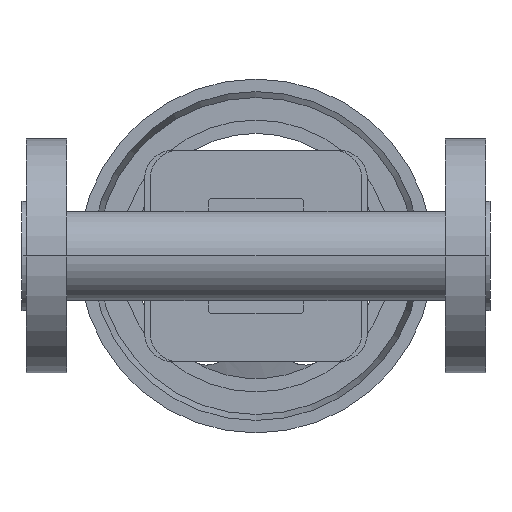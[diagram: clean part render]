
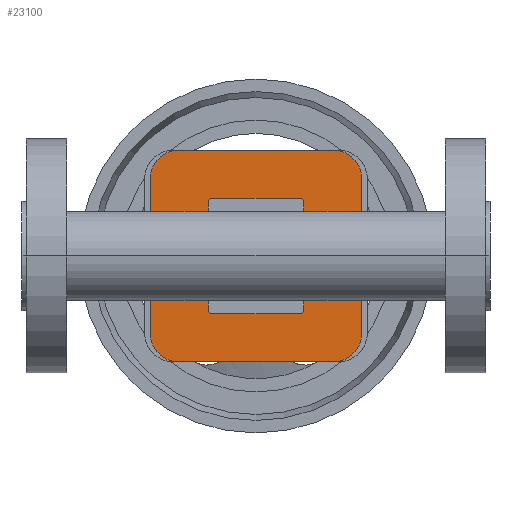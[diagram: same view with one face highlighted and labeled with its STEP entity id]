
A CAD part, front view. The second image highlights one B-rep face of the part: STEP entity #23100.
In plain terms, the highlighted planar face has unit normal (0, -1, 0).
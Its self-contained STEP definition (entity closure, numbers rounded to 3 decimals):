
#1070=CARTESIAN_POINT('',(126.533,39.,18.284));
#1080=VERTEX_POINT('',#1070);
#1110=CARTESIAN_POINT('',(119.977,39.,0.));
#1120=DIRECTION('',(0.,-1.,-0.));
#1130=DIRECTION('',(1.,0.,0.));
#1140=AXIS2_PLACEMENT_3D('',#1110,#1120,#1130);
#1150=ELLIPSE('',#1140,24.111,19.);
#1160=CARTESIAN_POINT('',(126.533,39.,-18.284));
#1170=VERTEX_POINT('',#1160);
#1180=EDGE_CURVE('',#1170,#1080,#1150,.T.);
#9020=CARTESIAN_POINT('',(152.5,39.,-34.5));
#9030=VERTEX_POINT('',#9020);
#9190=CARTESIAN_POINT('',(139.5,39.,-47.5));
#9200=VERTEX_POINT('',#9190);
#9230=CARTESIAN_POINT('',(139.5,39.,-34.5));
#9240=DIRECTION('',(-0.,1.,0.));
#9250=DIRECTION('',(1.,0.,0.));
#9260=AXIS2_PLACEMENT_3D('',#9230,#9240,#9250);
#9270=CIRCLE('',#9260,13.);
#9280=EDGE_CURVE('',#9030,#9200,#9270,.T.);
#9440=CARTESIAN_POINT('',(70.5,39.,-47.5));
#9450=VERTEX_POINT('',#9440);
#9610=CARTESIAN_POINT('',(57.5,39.,-34.5));
#9620=VERTEX_POINT('',#9610);
#9650=CARTESIAN_POINT('',(70.5,39.,-34.5));
#9660=DIRECTION('',(0.,1.,0.));
#9670=DIRECTION('',(0.,0.,-1.));
#9680=AXIS2_PLACEMENT_3D('',#9650,#9660,#9670);
#9690=CIRCLE('',#9680,13.);
#9700=EDGE_CURVE('',#9450,#9620,#9690,.T.);
#9860=CARTESIAN_POINT('',(70.5,39.,47.5));
#9870=VERTEX_POINT('',#9860);
#10020=CARTESIAN_POINT('',(139.5,39.,47.5));
#10030=VERTEX_POINT('',#10020);
#10060=CARTESIAN_POINT('',(70.5,39.,47.5));
#10070=DIRECTION('',(1.,0.,0.));
#10080=VECTOR('',#10070,1.);
#10090=LINE('',#10060,#10080);
#10100=EDGE_CURVE('',#9870,#10030,#10090,.T.);
#10200=CARTESIAN_POINT('',(62.,39.,3.));
#10210=DIRECTION('',(0.,0.,1.));
#10220=VECTOR('',#10210,1.);
#10230=LINE('',#10200,#10220);
#10240=CARTESIAN_POINT('',(62.,39.,-6.));
#10250=VERTEX_POINT('',#10240);
#10260=CARTESIAN_POINT('',(62.,39.,6.));
#10270=VERTEX_POINT('',#10260);
#10280=EDGE_CURVE('',#10250,#10270,#10230,.T.);
#10660=CARTESIAN_POINT('',(152.5,39.,34.5));
#10670=VERTEX_POINT('',#10660);
#10770=CARTESIAN_POINT('',(152.5,39.,34.5));
#10780=DIRECTION('',(0.,0.,-1.));
#10790=VECTOR('',#10780,1.);
#10800=LINE('',#10770,#10790);
#10810=EDGE_CURVE('',#10670,#9030,#10800,.T.);
#11550=CARTESIAN_POINT('',(105.,39.,6.));
#11560=DIRECTION('',(1.,0.,0.));
#11570=VECTOR('',#11560,1.);
#11580=LINE('',#11550,#11570);
#11590=CARTESIAN_POINT('',(77.65,39.,6.));
#11600=VERTEX_POINT('',#11590);
#11610=EDGE_CURVE('',#10270,#11600,#11580,.T.);
#14610=CARTESIAN_POINT('',(124.5,39.,26.));
#14620=VERTEX_POINT('',#14610);
#14770=CARTESIAN_POINT('',(85.5,39.,26.));
#14780=VERTEX_POINT('',#14770);
#14810=CARTESIAN_POINT('',(114.75,39.,26.));
#14820=DIRECTION('',(1.,0.,0.));
#14830=VECTOR('',#14820,1.);
#14840=LINE('',#14810,#14830);
#14850=EDGE_CURVE('',#14780,#14620,#14840,.T.);
#15710=CARTESIAN_POINT('',(128.5,39.,-18.648));
#15720=DIRECTION('',(-0.,-1.,0.));
#15730=DIRECTION('',(-0.783,0.,0.622));
#15740=AXIS2_PLACEMENT_3D('',#15710,#15720,#15730);
#15750=CIRCLE('',#15740,2.);
#15760=CARTESIAN_POINT('',(126.5,39.,-18.648));
#15770=VERTEX_POINT('',#15760);
#15780=EDGE_CURVE('',#1170,#15770,#15750,.T.);
#15950=CARTESIAN_POINT('',(105.,39.,0.));
#15960=DIRECTION('',(0.,1.,0.));
#15970=DIRECTION('',(-0.783,0.,-0.622));
#15980=AXIS2_PLACEMENT_3D('',#15950,#15960,#15970);
#15990=CIRCLE('',#15980,28.);
#16000=CARTESIAN_POINT('',(83.067,39.,17.405));
#16010=VERTEX_POINT('',#16000);
#16020=EDGE_CURVE('',#11600,#16010,#15990,.T.);
#16240=CARTESIAN_POINT('',(126.5,39.,18.648));
#16250=VERTEX_POINT('',#16240);
#16280=CARTESIAN_POINT('',(128.5,39.,18.648));
#16290=DIRECTION('',(0.,-1.,-0.));
#16300=DIRECTION('',(-1.,0.,0.));
#16310=AXIS2_PLACEMENT_3D('',#16280,#16290,#16300);
#16320=CIRCLE('',#16310,2.);
#16330=EDGE_CURVE('',#16250,#1080,#16320,.T.);
#16450=CARTESIAN_POINT('',(81.5,39.,18.648));
#16460=DIRECTION('',(0.,-1.,-0.));
#16470=DIRECTION('',(0.783,0.,-0.622));
#16480=AXIS2_PLACEMENT_3D('',#16450,#16460,#16470);
#16490=CIRCLE('',#16480,2.);
#16500=CARTESIAN_POINT('',(83.5,39.,18.648));
#16510=VERTEX_POINT('',#16500);
#16520=EDGE_CURVE('',#16010,#16510,#16490,.T.);
#17130=CARTESIAN_POINT('',(83.5,39.,-18.648));
#17140=VERTEX_POINT('',#17130);
#17190=CARTESIAN_POINT('',(81.5,39.,-18.648));
#17200=DIRECTION('',(0.,-1.,-0.));
#17210=DIRECTION('',(1.,0.,0.));
#17220=AXIS2_PLACEMENT_3D('',#17190,#17200,#17210);
#17230=CIRCLE('',#17220,2.);
#17240=CARTESIAN_POINT('',(83.067,39.,-17.405));
#17250=VERTEX_POINT('',#17240);
#17260=EDGE_CURVE('',#17140,#17250,#17230,.T.);
#17610=CARTESIAN_POINT('',(83.5,39.,-24.));
#17620=VERTEX_POINT('',#17610);
#17780=CARTESIAN_POINT('',(85.5,39.,-26.));
#17790=VERTEX_POINT('',#17780);
#17820=CARTESIAN_POINT('',(85.5,39.,-24.));
#17830=DIRECTION('',(0.,1.,0.));
#17840=DIRECTION('',(0.,0.,-1.));
#17850=AXIS2_PLACEMENT_3D('',#17820,#17830,#17840);
#17860=CIRCLE('',#17850,2.);
#17870=EDGE_CURVE('',#17790,#17620,#17860,.T.);
#18100=CARTESIAN_POINT('',(124.5,39.,-26.));
#18110=VERTEX_POINT('',#18100);
#18140=CARTESIAN_POINT('',(95.25,39.,-26.));
#18150=DIRECTION('',(-1.,0.,0.));
#18160=VECTOR('',#18150,1.);
#18170=LINE('',#18140,#18160);
#18180=EDGE_CURVE('',#18110,#17790,#18170,.T.);
#18420=CARTESIAN_POINT('',(126.5,39.,-24.));
#18430=VERTEX_POINT('',#18420);
#18460=CARTESIAN_POINT('',(124.5,39.,-24.));
#18470=DIRECTION('',(-0.,1.,0.));
#18480=DIRECTION('',(1.,0.,0.));
#18490=AXIS2_PLACEMENT_3D('',#18460,#18470,#18480);
#18500=CIRCLE('',#18490,2.);
#18510=EDGE_CURVE('',#18430,#18110,#18500,.T.);
#18710=CARTESIAN_POINT('',(126.5,39.,-12.));
#18720=DIRECTION('',(0.,0.,-1.));
#18730=VECTOR('',#18720,1.);
#18740=LINE('',#18710,#18730);
#18750=EDGE_CURVE('',#15770,#18430,#18740,.T.);
#19130=CARTESIAN_POINT('',(126.5,39.,24.));
#19140=VERTEX_POINT('',#19130);
#19170=CARTESIAN_POINT('',(126.5,39.,9.324));
#19180=DIRECTION('',(0.,0.,-1.));
#19190=VECTOR('',#19180,1.);
#19200=LINE('',#19170,#19190);
#19210=EDGE_CURVE('',#19140,#16250,#19200,.T.);
#19360=CARTESIAN_POINT('',(124.5,39.,24.));
#19370=DIRECTION('',(0.,1.,0.));
#19380=DIRECTION('',(0.,0.,1.));
#19390=AXIS2_PLACEMENT_3D('',#19360,#19370,#19380);
#19400=CIRCLE('',#19390,2.);
#19410=EDGE_CURVE('',#14620,#19140,#19400,.T.);
#19880=CARTESIAN_POINT('',(83.5,39.,24.));
#19890=VERTEX_POINT('',#19880);
#19920=CARTESIAN_POINT('',(85.5,39.,24.));
#19930=DIRECTION('',(0.,1.,0.));
#19940=DIRECTION('',(-1.,0.,0.));
#19950=AXIS2_PLACEMENT_3D('',#19920,#19930,#19940);
#19960=CIRCLE('',#19950,2.);
#19970=EDGE_CURVE('',#19890,#14780,#19960,.T.);
#20270=CARTESIAN_POINT('',(105.,39.,0.));
#20280=DIRECTION('',(0.,1.,0.));
#20290=DIRECTION('',(-0.783,0.,-0.622));
#20300=AXIS2_PLACEMENT_3D('',#20270,#20280,#20290);
#20310=CIRCLE('',#20300,28.);
#20320=CARTESIAN_POINT('',(77.65,39.,-6.));
#20330=VERTEX_POINT('',#20320);
#20340=EDGE_CURVE('',#17250,#20330,#20310,.T.);
#20850=CARTESIAN_POINT('',(83.5,39.,9.5));
#20860=DIRECTION('',(0.,-0.,1.));
#20870=VECTOR('',#20860,1.);
#20880=LINE('',#20850,#20870);
#20890=EDGE_CURVE('',#17620,#17140,#20880,.T.);
#21270=CARTESIAN_POINT('',(83.5,39.,9.5));
#21280=DIRECTION('',(0.,-0.,1.));
#21290=VECTOR('',#21280,1.);
#21300=LINE('',#21270,#21290);
#21310=EDGE_CURVE('',#16510,#19890,#21300,.T.);
#21450=CARTESIAN_POINT('',(105.,39.,-6.));
#21460=DIRECTION('',(-1.,0.,0.));
#21470=VECTOR('',#21460,1.);
#21480=LINE('',#21450,#21470);
#21490=EDGE_CURVE('',#20330,#10250,#21480,.T.);
#22090=CARTESIAN_POINT('',(139.5,39.,34.5));
#22100=DIRECTION('',(0.,1.,0.));
#22110=DIRECTION('',(0.,0.,1.));
#22120=AXIS2_PLACEMENT_3D('',#22090,#22100,#22110);
#22130=CIRCLE('',#22120,13.);
#22140=EDGE_CURVE('',#10030,#10670,#22130,.T.);
#22550=CARTESIAN_POINT('',(105.,39.,0.));
#22560=DIRECTION('',(0.,1.,0.));
#22570=DIRECTION('',(0.,0.,1.));
#22580=AXIS2_PLACEMENT_3D('',#22550,#22560,#22570);
#22590=PLANE('',#22580);
#22600=ORIENTED_EDGE('',*,*,#17260,.T.);
#22610=ORIENTED_EDGE('',*,*,#20890,.T.);
#22620=ORIENTED_EDGE('',*,*,#17870,.T.);
#22630=ORIENTED_EDGE('',*,*,#18180,.T.);
#22640=ORIENTED_EDGE('',*,*,#18510,.T.);
#22650=ORIENTED_EDGE('',*,*,#18750,.T.);
#22660=ORIENTED_EDGE('',*,*,#15780,.T.);
#22670=ORIENTED_EDGE('',*,*,#1180,.F.);
#22680=ORIENTED_EDGE('',*,*,#16330,.T.);
#22690=ORIENTED_EDGE('',*,*,#19210,.T.);
#22700=ORIENTED_EDGE('',*,*,#19410,.T.);
#22710=ORIENTED_EDGE('',*,*,#14850,.T.);
#22720=ORIENTED_EDGE('',*,*,#19970,.T.);
#22730=ORIENTED_EDGE('',*,*,#21310,.T.);
#22740=ORIENTED_EDGE('',*,*,#16520,.T.);
#22750=ORIENTED_EDGE('',*,*,#16020,.T.);
#22760=ORIENTED_EDGE('',*,*,#11610,.T.);
#22770=ORIENTED_EDGE('',*,*,#10280,.T.);
#22780=ORIENTED_EDGE('',*,*,#21490,.T.);
#22790=ORIENTED_EDGE('',*,*,#20340,.T.);
#22800=EDGE_LOOP('',(#22790,#22780,#22770,#22760,#22750,#22740,#22730,
#22720,#22710,#22700,#22690,#22680,#22670,#22660,#22650,#22640,#22630,
#22620,#22610,#22600));
#22810=FACE_BOUND('',#22800,.T.);
#22820=ORIENTED_EDGE('',*,*,#10100,.F.);
#22830=ORIENTED_EDGE('',*,*,#22140,.F.);
#22840=ORIENTED_EDGE('',*,*,#10810,.F.);
#22850=ORIENTED_EDGE('',*,*,#9280,.F.);
#22860=CARTESIAN_POINT('',(139.5,39.,-47.5));
#22870=DIRECTION('',(-1.,0.,0.));
#22880=VECTOR('',#22870,1.);
#22890=LINE('',#22860,#22880);
#22900=EDGE_CURVE('',#9200,#9450,#22890,.T.);
#22910=ORIENTED_EDGE('',*,*,#22900,.F.);
#22920=ORIENTED_EDGE('',*,*,#9700,.F.);
#22930=CARTESIAN_POINT('',(57.5,39.,-34.5));
#22940=DIRECTION('',(0.,0.,1.));
#22950=VECTOR('',#22940,1.);
#22960=LINE('',#22930,#22950);
#22970=CARTESIAN_POINT('',(57.5,39.,34.5));
#22980=VERTEX_POINT('',#22970);
#22990=EDGE_CURVE('',#9620,#22980,#22960,.T.);
#23000=ORIENTED_EDGE('',*,*,#22990,.F.);
#23010=CARTESIAN_POINT('',(70.5,39.,34.5));
#23020=DIRECTION('',(0.,1.,0.));
#23030=DIRECTION('',(-1.,0.,0.));
#23040=AXIS2_PLACEMENT_3D('',#23010,#23020,#23030);
#23050=CIRCLE('',#23040,13.);
#23060=EDGE_CURVE('',#22980,#9870,#23050,.T.);
#23070=ORIENTED_EDGE('',*,*,#23060,.F.);
#23080=EDGE_LOOP('',(#23070,#23000,#22920,#22910,#22850,#22840,#22830,
#22820));
#23090=FACE_OUTER_BOUND('',#23080,.T.);
#23100=ADVANCED_FACE('',(#22810,#23090),#22590,.F.);
